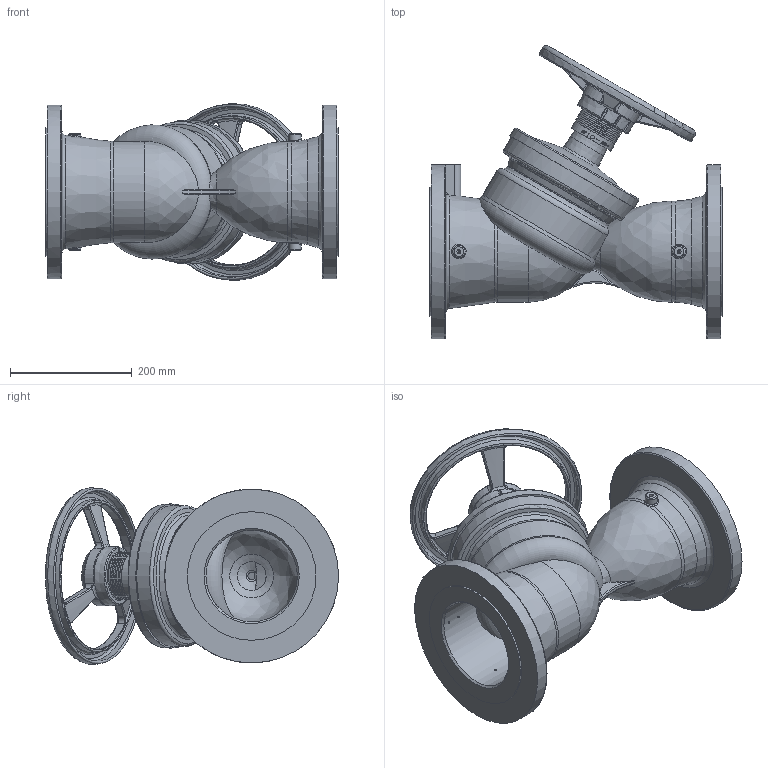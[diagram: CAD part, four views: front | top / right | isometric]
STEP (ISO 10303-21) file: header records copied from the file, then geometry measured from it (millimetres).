
FILE_DESCRIPTION((''),'2;1');
FILE_NAME('P:\Fastrack\53972_CRANE 3D\DM921-941\WORKSPACE\DM921_DN150\DM921_DN150.stp','2011-01-18T12:04:55',('btaylor'),(''),'Autodesk Inventor 2008','Autodesk Inventor 2008','');
FILE_SCHEMA(('AUTOMOTIVE_DESIGN { 1 0 10303 214 1 1 1 1 }'));
Length unit declared in the file: millimetre
Products named in the file (1): DM921_DN150
Bounding box: 480 x 480.68 x 289.5 mm (x, y, z)
Volume: 6990117.2 mm3; surface area: 1123737.7 mm2
Topology: 2 solids, 2 shells, 854 faces, 2224 edges, 1419 vertices
Faces by surface type: plane 330, bspline 277, cylinder 156, torus 48, cone 43
Full cylindrical faces by diameter (mm): 6 x2, 9.5 x8, 20 x2, 21.3 x2, 21.4 x1, 24 x1, 28.6 x1, 29.5 x1, 29.844 x1, 32.5 x1, 33.3 x1, 36 x1, 46 x1, 49 x1, 50 x1, 56 x1, 61 x1, 68 x1, 69 x1, 75 x1, 80 x1, 150 x2, 177 x1, 182 x1, 196.5 x1, 197 x1, 211 x2, 285 x2
Entity records: 75936 total; most frequent: CARTESIAN_POINT 56666, ORIENTED_EDGE 4118, DIRECTION 3033, EDGE_CURVE 2059, VERTEX_POINT 1375, AXIS2_PLACEMENT_3D 1127, EDGE_LOOP 1076, STYLED_ITEM 854
